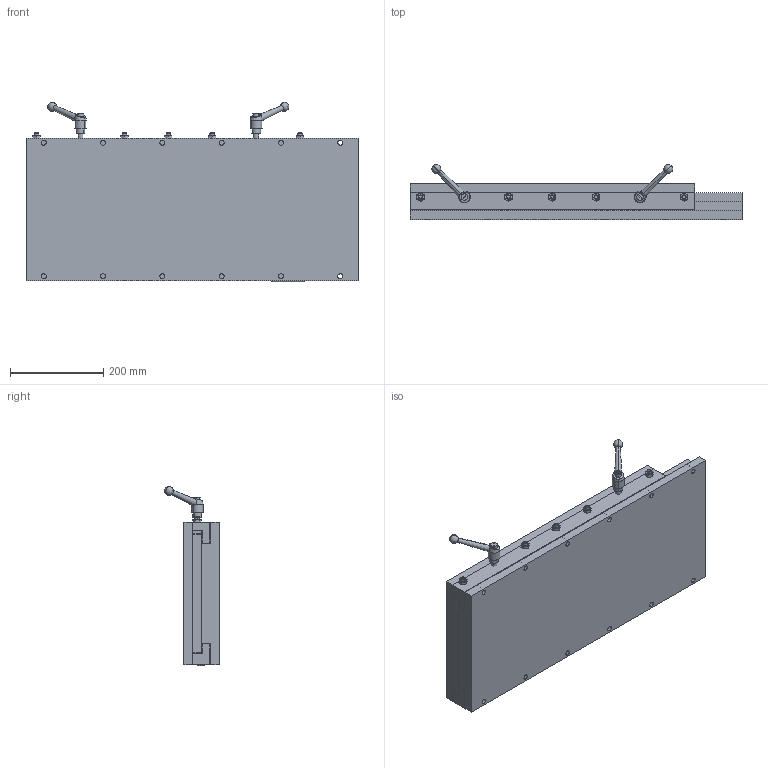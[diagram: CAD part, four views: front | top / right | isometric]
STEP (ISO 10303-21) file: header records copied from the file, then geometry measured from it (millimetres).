
FILE_DESCRIPTION (( 'STEP AP214' ), '1' );
FILE_NAME ('SW12-SL24-BL28-LH.STEP', '2011-06-16T19:36:20', ( '' ), ( '' ), 'SwSTEP 2.0', 'SolidWorks 2011', '' );
FILE_SCHEMA (( 'AUTOMOTIVE_DESIGN' ));
Length unit declared in the file: inch
Products named in the file (13): KHB_102; _MSHXNUT_MSHXNUT 0.375-24-D-N; _SSCUPSOC_SSCUPSKT 0.375-24x1.25-HX-N; Tag; Gen2 Bar_12x24 BAR; Gen2 Adj Gib_12x24 ADJ GIB; Gen2 Gib_12x24 GIB; Gen2 Top plate_12x24 TPLATE; Gen2 BASE_12x28 BASE; Gen2 Hardplate_12x28 HPLATE; Gen2 Baseplate_12x28 BASE; SW12-SL24-BL28-LH; Gen2 SADDLE_12x24 SADDLE with LOCK HANDLES
Assembly tree (21 placements, depth 3):
  SW12-SL24-BL28-LH
    Gen2 SADDLE_12x24 SADDLE with LOCK HANDLES
      _MSHXNUT_MSHXNUT 0.375-24-D-N  x5
      KHB_102  x2
      Gen2 Bar_12x24 BAR
      _SSCUPSOC_SSCUPSKT 0.375-24x1.25-HX-N  x5
      Tag
      Gen2 Top plate_12x24 TPLATE
      Gen2 Adj Gib_12x24 ADJ GIB
      Gen2 Gib_12x24 GIB
    Gen2 BASE_12x28 BASE
      Gen2 Baseplate_12x28 BASE
      Gen2 Hardplate_12x28 HPLATE
Bounding box: 711.2 x 117.53 x 383.71 mm (x, y, z)
Volume: 15565166.2 mm3; surface area: 2007810.6 mm2
Topology: 24 solids, 24 shells, 477 faces, 1076 edges, 659 vertices
Faces by surface type: plane 197, cylinder 138, cone 134, sphere 4, bspline 4
Entity records: 9614 total; most frequent: CARTESIAN_POINT 2325, DIRECTION 1387, ORIENTED_EDGE 1222, EDGE_CURVE 611, AXIS2_PLACEMENT_3D 528, VERTEX_POINT 394, EDGE_LOOP 345, LINE 331
